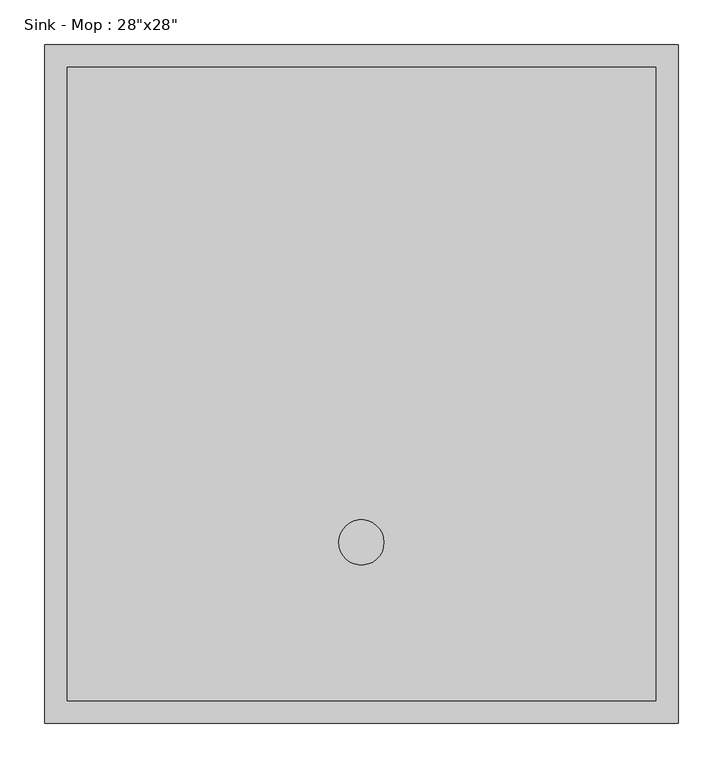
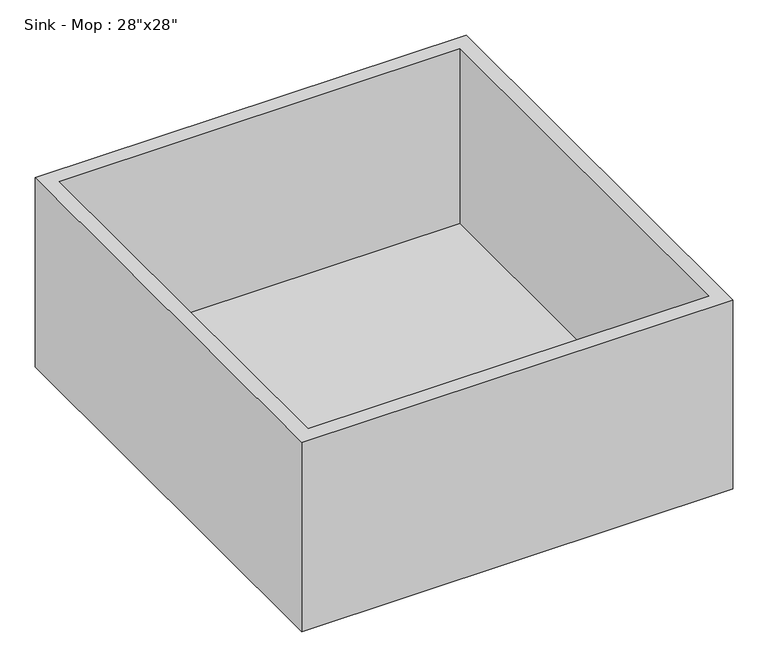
"""IFC4 building model written with IfcOpenShell, lengths in millimetres: flow terminal geometry."""

from ifc_helpers import new_model, si_unit, point, frame_2d, origin, origin_with_axes, place, context, project, spatial, circle_curve, trimmed, segment, composite_curve, outline, extrude, faceted_brep, source, transform, mapped, element, save


def flow_terminal_32f39d9c(model_context):
    return source(origin(), model_context, "Body", "SolidModel", [
        extrude(outline(composite_curve([segment(trimmed(circle_curve(frame_2d((355.6, -558.8)), 25.4), [point((330.2, -558.8))], [point((381.0, -558.8))], False, "CARTESIAN"), True, "CONTINUOUS"), segment(trimmed(circle_curve(frame_2d((355.6, -558.8)), 25.4), [point((381.0, -558.8))], [point((330.2, -558.8))], False, "CARTESIAN"), True, "CONTINUOUS")], self_intersect=False)), origin_with_axes(), (0.0, 0.0, 1.0), 25.4),
        faceted_brep([(711.2, 0.0, 330.2), (0.0, 0.0, 330.2), (0.0, -762.0, 330.2), (711.2, -762.0, 330.2), (25.4, -25.4, 330.2), (685.8, -25.4, 330.2), (685.8, -736.6, 330.2), (25.4, -736.6, 330.2), (711.2, 0.0, 0.0), (711.2, -762.0, 0.0), (0.0, -762.0, 0.0), (0.0, 0.0, 0.0), (685.8, -25.4, 25.4), (25.4, -25.4, 25.4), (25.4, -736.6, 25.4), (685.8, -736.6, 25.4)], [[[0, 1, 2, 3], [4, 5, 6, 7]], [[8, 9, 10, 11]], [[1, 0, 8, 11]], [[2, 1, 11, 10]], [[3, 2, 10, 9]], [[0, 3, 9, 8]], [[12, 13, 14, 15]], [[13, 12, 5, 4]], [[14, 13, 4, 7]], [[15, 14, 7, 6]], [[12, 15, 6, 5]]]),
    ])


if __name__ == "__main__":
    model = new_model("IFC4")
    model_context = context("Model", 3, world=origin())
    ifc_project = project(units=[si_unit("LENGTHUNIT", "METRE", prefix="MILLI")], contexts=[model_context])
    site = spatial("IfcSite", under=ifc_project)
    building = spatial("IfcBuilding", under=site)
    placement = place(None, origin())
    flow_terminal_shape = flow_terminal_32f39d9c(model_context)
    element("IfcFlowTerminal", 1, ObjectType="Sink - Mop : 28\"x28\"", at=placement, inside=building, context=model_context, shape_type="MappedRepresentation", body=[
        mapped(flow_terminal_shape, transform((0.0, 0.0, 0.0), x_axis=(1.0, 0.0, 0.0), y_axis=(0.0, 1.0, 0.0), z_axis=(0.0, 0.0, 1.0))),
    ])
    save(model, "model.ifc")
